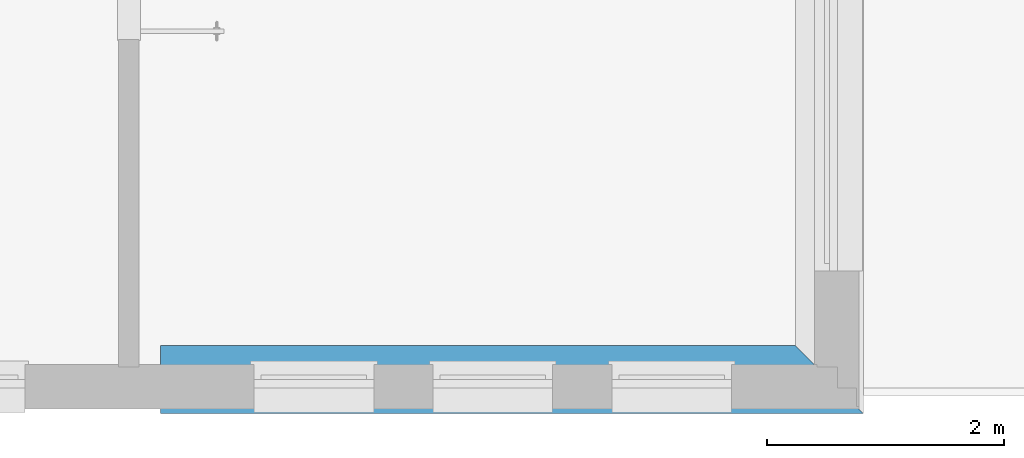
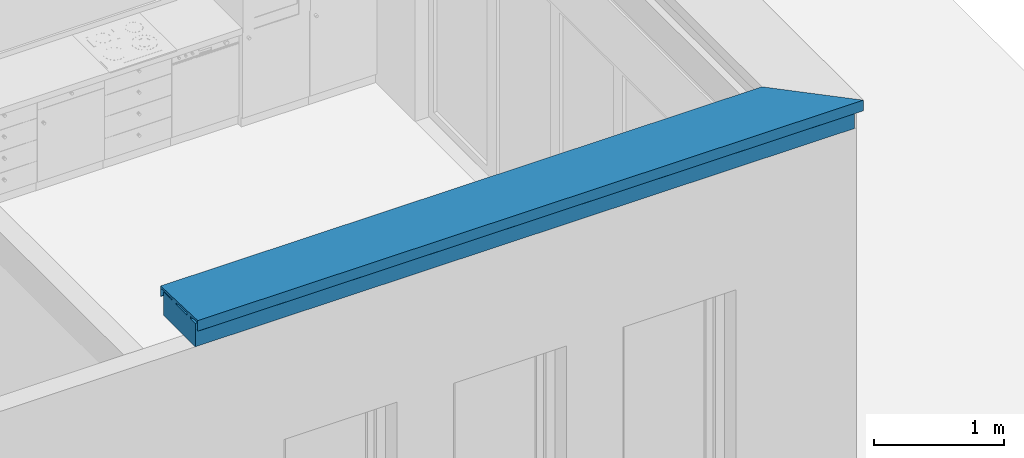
# One storey, part 3 of 28: 1 beam.
"""IFC4 building model written with IfcOpenShell, lengths in metres."""

from ifc_helpers import new_model, entity, si_unit, converted_unit, derived_unit, direction, frame, origin_with_axes, place, context, subcontext, project, spatial, triangles, material, constituent, constituent_set, type_object, element, save


model = new_model("IFC4")

# Units and contexts
model_context = context("Model", 3, precision=1e-05, world=origin_with_axes(), true_north=direction((-0.526213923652, 0.850352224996)))
body_context = subcontext(model_context, "Body", "Model", "MODEL_VIEW")
ifc_project = project(units=[si_unit("LENGTHUNIT", "METRE"), si_unit("AREAUNIT", "SQUARE_METRE"), si_unit("VOLUMEUNIT", "CUBIC_METRE"), converted_unit("PLANEANGLEUNIT", "DEGREE", entity("IfcPlaneAngleMeasure", 0.0174532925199), si_unit("PLANEANGLEUNIT", "RADIAN"), dimensions=[0, 0, 0, 0, 0, 0, 0]), si_unit("SOLIDANGLEUNIT", "STERADIAN"), converted_unit("TIMEUNIT", "Year", entity("IfcTimeMeasure", 31556926.0), si_unit("TIMEUNIT", "SECOND"), dimensions=[0, 0, 1, 0, 0, 0, 0]), si_unit("MASSUNIT", "GRAM", prefix="KILO"), si_unit("THERMODYNAMICTEMPERATUREUNIT", "DEGREE_CELSIUS"), si_unit("LUMINOUSINTENSITYUNIT", "LUMEN"), si_unit("ENERGYUNIT", "JOULE", prefix="MEGA"), derived_unit("THERMALCONDUCTANCEUNIT", [(si_unit("POWERUNIT", "WATT"), 1), (si_unit("LENGTHUNIT", "METRE"), -1), (si_unit("THERMODYNAMICTEMPERATUREUNIT", "KELVIN"), -1)]), derived_unit("SPECIFICHEATCAPACITYUNIT", [(si_unit("ENERGYUNIT", "JOULE"), 1), (si_unit("MASSUNIT", "GRAM", prefix="KILO"), -1), (si_unit("THERMODYNAMICTEMPERATUREUNIT", "KELVIN"), -1)]), derived_unit("MASSDENSITYUNIT", [(si_unit("MASSUNIT", "GRAM", prefix="KILO"), 1), (si_unit("VOLUMEUNIT", "CUBIC_METRE"), -1)])], contexts=[model_context])

# Site, building, storey, space
site_placement = place(None, origin_with_axes())
site = spatial("IfcSite", under=ifc_project, at=site_placement, Name="Gelände", CompositionType="ELEMENT")
building_placement = place(site_placement, origin_with_axes())
building = spatial("IfcBuilding", under=site, at=building_placement, Name="Haus vom Nikolaus", CompositionType="ELEMENT")
storey_placement = place(building_placement, origin_with_axes())
storey = spatial("IfcBuildingStorey", under=building, at=storey_placement, Name="EG", CompositionType="ELEMENT", Elevation=0.0)
space_placement = place(storey_placement, frame((-0.115002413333, 12.9948320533, 0.0), z_axis=(0.0, 0.0, 1.0), x_axis=(0.0, -1.0, 0.0)))
space = spatial("IfcSpace", under=storey, at=space_placement, Name="000", CompositionType="ELEMENT")

# Beam
ifc_material_1 = material(Name="Verputz, Kalkzement")
ifc_constituent_1 = constituent(ifc_material_1, Name="Component 1")
ifc_material_2 = material(Name="Holz, Bauholz")
ifc_constituent_2 = constituent(ifc_material_2, Name="Component 2")
ifc_material_3 = material(Name="Dämmung, hart XPS")
ifc_constituent_3 = constituent(ifc_material_3, Name="Component 3")
ifc_material_4 = material(Name="Holz, Brettschichtholz")
ifc_constituent_4 = constituent(ifc_material_4, Name="Component 4")
ifc_material_5 = material(Name="MW Kalksandstein")
ifc_constituent_5 = constituent(ifc_material_5, Name="Component 5")
ifc_constituent_6 = constituent(ifc_material_2, Name="Component 6")
ifc_constituent_7 = constituent(ifc_material_3, Name="Component 7")
ifc_material_6 = material(Name="Holz, Spanplatte")
ifc_constituent_8 = constituent(ifc_material_6, Name="Component 8")
ifc_material_7 = material(Name="Metall, Stahl verzinkt")
ifc_constituent_9 = constituent(ifc_material_7, Name="Component 9")
ifc_constituent_set = constituent_set(constituents=[ifc_constituent_1, ifc_constituent_2, ifc_constituent_3, ifc_constituent_4, ifc_constituent_5, ifc_constituent_6, ifc_constituent_7, ifc_constituent_8, ifc_constituent_9], Name="Bauteil - Attika Mauerwerk")
beam_type = type_object("IfcBeamType", Name="Bauteil - Attika Mauerwerk 574 x 270", PredefinedType="NOTDEFINED")
beam_placement = place(space_placement, frame((12.9299999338, 11.3750000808, 3.67), z_axis=(0.0, 0.0, 1.0), x_axis=(0.0, -1.0, 0.0)))
element("IfcBeam", 1, at=beam_placement, inside=space, type_object=beam_type, material=ifc_constituent_set, Name="Attika-Wand-005", ObjectType="Bauteil - Attika Mauerwerk 574 x 270", context=body_context, shape_type="Tessellation", body=[
    triangles([(5.71461561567, 0.160124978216, 0.300000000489), (-0.160124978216, 0.180000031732, 0.300000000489), (-0.160124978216, 0.160124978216, 0.300000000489), (5.71461561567, 0.180000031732, 0.300000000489), (-0.160039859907, 0.180000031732, 0.259126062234), (-0.160039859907, 0.160039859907, 0.259126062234), (5.71461561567, 0.160000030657, 0.239999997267), (-0.160023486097, 0.160023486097, 0.251263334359), (-0.160018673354, 0.160018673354, 0.24895224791), (-0.160000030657, 0.160000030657, 0.239999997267), (5.71461561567, 0.180000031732, 0.08), (5.71461561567, 0.160000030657, 0.08), (-0.160000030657, 0.180000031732, 0.228597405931), (-0.160000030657, 0.180000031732, 0.08), (-0.160000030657, 0.180000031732, 0.238724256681), (-0.160000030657, 0.180000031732, 0.23090849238), (-0.160000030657, 0.180000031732, 0.239999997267), (-0.160018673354, 0.180000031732, 0.24895224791), (-0.160023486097, 0.180000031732, 0.251263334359), (-0.160000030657, 0.160000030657, 0.228597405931), (-0.160000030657, 0.160000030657, 0.23090849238), (-0.160000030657, 0.160000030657, 0.238724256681), (-0.160000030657, 0.160000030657, 0.08)], [[1, 2, 3], [1, 4, 2], [5, 3, 2], [3, 5, 6], [7, 6, 8], [1, 6, 7], [7, 8, 9], [7, 9, 10], [6, 1, 3], [11, 4, 7], [11, 7, 12], [1, 7, 4], [13, 4, 11], [4, 5, 2], [14, 13, 11], [15, 4, 16], [13, 16, 4], [17, 4, 15], [18, 4, 17], [19, 5, 4], [18, 19, 4], [19, 6, 5], [19, 8, 6], [18, 8, 19], [18, 9, 8], [17, 9, 18], [17, 10, 9], [20, 7, 21], [21, 7, 22], [7, 20, 12], [12, 20, 23], [22, 7, 10], [11, 23, 14], [11, 12, 23], [14, 20, 13], [14, 23, 20], [13, 21, 16], [13, 20, 21], [16, 22, 15], [16, 21, 22], [15, 10, 17], [15, 22, 10]], closed=True),
    triangles([(-0.0501249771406, 0.110082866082, 0.30784881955), (5.71461561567, 0.110124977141, 0.300000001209), (-0.0501249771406, 0.110124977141, 0.300000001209), (-0.109995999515, 0.109995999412, 0.324039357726), (5.71461561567, 0.109995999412, 0.324039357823), (-0.0501249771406, 0.110007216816, 0.321948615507), (-0.0501249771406, 0.110039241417, 0.315979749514), (-0.0501249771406, 0.0501249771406, 0.321948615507), (5.71461561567, 0.0501249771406, 0.321948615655), (5.71461561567, 0.0501249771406, 0.300000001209), (-0.0501249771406, 0.0501249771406, 0.300000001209), (-0.0501249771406, 0.0501249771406, 0.30784881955), (-0.0501249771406, 0.0501249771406, 0.315979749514)], [[1, 2, 3], [4, 5, 6], [7, 2, 1], [2, 7, 5], [5, 7, 6], [6, 8, 4], [5, 8, 9], [8, 5, 4], [2, 9, 10], [2, 5, 9], [2, 11, 3], [2, 10, 11], [11, 1, 3], [1, 11, 12], [12, 7, 1], [7, 12, 13], [13, 6, 7], [6, 13, 8], [9, 12, 10], [12, 9, 13], [10, 12, 11], [13, 9, 8]], closed=True),
    triangles([(5.71461561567, 0.0, 0.24), (0.0, 0.16, 0.24), (0.0, 0.0, 0.24), (5.71461561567, 0.16, 0.24), (0.0, 0.0, 0.238724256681), (0.0, 0.16, 0.238724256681), (0.0, 0.0, 0.23090849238), (0.0, 0.0, 0.228597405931), (5.71461561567, 0.0, 0.0799999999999), (0.0, 0.0, 0.0799999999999), (5.71461561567, 0.16, 0.0800000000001), (0.0, 0.16, 0.228597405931), (0.0, 0.16, 0.23090849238), (0.0, 0.16, 0.0799999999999)], [[1, 2, 3], [1, 4, 2], [2, 5, 3], [2, 6, 5], [7, 1, 5], [1, 8, 9], [8, 1, 7], [9, 8, 10], [5, 1, 3], [1, 11, 4], [1, 9, 11], [12, 4, 11], [4, 6, 2], [13, 6, 4], [12, 11, 14], [13, 4, 12], [7, 6, 13], [6, 7, 5], [12, 7, 13], [12, 8, 7], [14, 8, 12], [14, 10, 8], [11, 10, 14], [11, 9, 10]], closed=True),
    triangles([(5.71461561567, -0.2, 0.300000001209), (0.2, -0.18, 0.300000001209), (0.2, -0.2, 0.300000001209), (5.71461561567, -0.18, 0.300000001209), (0.2, -0.12, 0.300000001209), (0.2, -0.2, 0.259126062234), (0.2, 0.0501249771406, 0.300000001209), (0.2, 0.160039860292, 0.259126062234), (0.2, 0.110124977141, 0.300000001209), (0.2, 0.160124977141, 0.300000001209), (5.71461561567, -0.2, 0.24), (0.2, -0.2, 0.251263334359), (0.2, -0.2, 0.24895224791), (0.2, -0.2, 0.24), (5.71461561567, 0.110124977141, 0.300000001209), (5.71461561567, 0.160000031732, 0.24), (5.71461561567, 0.160124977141, 0.300000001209), (5.71461561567, 0.0501249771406, 0.300000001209), (5.71461561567, -0.12, 0.300000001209), (0.2, 0.160023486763, 0.251263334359), (0.2, 0.160018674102, 0.24895224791), (0.2, 0.160000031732, 0.24)], [[1, 2, 3], [1, 4, 2], [5, 6, 2], [2, 6, 3], [7, 6, 5], [8, 7, 9], [8, 9, 10], [7, 8, 6], [11, 6, 12], [1, 6, 11], [11, 12, 13], [11, 13, 14], [6, 1, 3], [1, 11, 4], [15, 16, 17], [16, 18, 11], [18, 16, 15], [19, 11, 18], [4, 11, 19], [4, 5, 2], [4, 19, 5], [19, 7, 5], [19, 18, 7], [18, 9, 7], [18, 15, 9], [15, 10, 9], [15, 17, 10], [16, 8, 17], [17, 8, 10], [20, 8, 16], [21, 16, 22], [20, 16, 21], [20, 6, 8], [20, 12, 6], [21, 12, 20], [21, 13, 12], [22, 13, 21], [22, 14, 13], [16, 14, 22], [16, 11, 14]], closed=True),
    triangles([(5.71461561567, -0.2, 0.24), (0.2, 0.0, 0.24), (0.2, -0.2, 0.24), (5.71461561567, 0.0, 0.24), (0.2, -0.2, 0.238724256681), (0.2, 0.0, 0.238724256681), (0.2, -0.2, 0.228597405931), (0.2, -0.2, 0.23090849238), (5.71461561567, -0.2, 0.0800000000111), (0.2, -0.2, 0.0800000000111), (5.71461561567, 0.0, 0.0799999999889), (0.2, 0.0, 0.228597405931), (0.2, 0.0, 0.23090849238), (0.2, 0.0, 0.0800000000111)], [[1, 2, 3], [1, 4, 2], [2, 5, 3], [2, 6, 5], [7, 1, 8], [8, 1, 5], [1, 7, 9], [9, 7, 10], [5, 1, 3], [9, 4, 1], [4, 9, 11], [12, 4, 11], [4, 6, 2], [13, 6, 4], [12, 11, 14], [13, 4, 12], [13, 5, 6], [13, 8, 5], [12, 8, 13], [12, 7, 8], [14, 7, 12], [14, 10, 7], [11, 10, 14], [11, 9, 10]], closed=True),
    triangles([(0.18, -0.12, 0.300000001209), (0.180062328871, -0.12, 0.30784881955), (5.71461561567, -0.12, 0.300000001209), (0.12, -0.12, 0.315979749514), (5.71461561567, -0.12, 0.315979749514), (0.180110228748, -0.12, 0.313880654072), (0.180062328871, -0.180062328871, 0.30784881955), (0.180110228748, -0.180110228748, 0.313880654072), (5.71461561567, -0.180110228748, 0.313880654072), (5.71461561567, -0.18, 0.300000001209), (0.18, -0.18, 0.300000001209)], [[1, 2, 3], [4, 5, 6], [3, 6, 5], [6, 3, 2], [6, 7, 8], [7, 6, 2], [6, 8, 4], [5, 8, 9], [8, 5, 4], [3, 9, 10], [3, 5, 9], [3, 11, 1], [3, 10, 11], [11, 2, 1], [2, 11, 7], [7, 10, 8], [11, 10, 7], [9, 8, 10]], closed=True),
    triangles([(5.71461561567, -0.31028294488, 0.300000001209), (0.31028294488, -0.2, 0.300000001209), (0.31028294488, -0.31028294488, 0.300000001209), (5.71461561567, -0.2, 0.300000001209), (0.31028294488, -0.31028294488, 0.259126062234), (0.31028294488, -0.2, 0.259126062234), (0.31028294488, -0.31028294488, 0.24895224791), (0.31028294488, -0.31028294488, 0.251263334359), (0.31028294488, -0.31028294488, 0.24), (0.31028294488, -0.31028294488, 0.238724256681), (0.31028294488, -0.31028294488, 0.23090849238), (0.31028294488, -0.31028294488, 0.228597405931), (5.71461561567, -0.31028294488, 0.08), (0.31028294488, -0.31028294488, 0.08), (5.71461561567, -0.2, 0.08), (0.31028294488, -0.2, 0.228597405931), (0.31028294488, -0.2, 0.251263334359), (0.31028294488, -0.2, 0.08), (0.31028294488, -0.2, 0.23090849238), (0.31028294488, -0.2, 0.238724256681), (0.31028294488, -0.2, 0.24), (0.31028294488, -0.2, 0.24895224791)], [[1, 2, 3], [1, 4, 2], [2, 5, 3], [2, 6, 5], [7, 1, 8], [8, 1, 5], [9, 1, 7], [10, 1, 9], [11, 1, 10], [12, 1, 11], [1, 12, 13], [13, 12, 14], [5, 1, 3], [4, 13, 15], [4, 1, 13], [16, 4, 15], [4, 6, 2], [17, 6, 4], [16, 15, 18], [19, 4, 16], [20, 4, 19], [21, 4, 20], [22, 4, 21], [17, 4, 22], [17, 5, 6], [17, 8, 5], [22, 8, 17], [22, 7, 8], [21, 7, 22], [21, 9, 7], [20, 9, 21], [20, 10, 9], [19, 10, 20], [19, 11, 10], [16, 11, 19], [16, 12, 11], [14, 16, 18], [16, 14, 12], [15, 14, 18], [15, 13, 14]], closed=True),
    triangles([(0.354205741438, 0.109996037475, 0.324039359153), (5.71461561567, 0.0501249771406, 0.321948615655), (0.354132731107, 0.0501249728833, 0.321948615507), (5.71461561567, 0.109995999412, 0.324039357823), (5.71461561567, 0.215636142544, 0.348471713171), (5.71461561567, -0.354338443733, 0.327839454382), (5.71461561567, 0.216359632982, 0.327753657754), (5.71461561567, -0.353640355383, 0.30784881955), (0.353924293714, -0.12080098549, 0.315979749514), (0.353640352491, -0.353640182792, 0.307848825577), (0.354205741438, -0.354205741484, 0.324039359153), (0.354132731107, -0.354132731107, 0.321948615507), (0.354335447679, 0.216359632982, 0.327753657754), (0.354338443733, 0.216356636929, 0.327839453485), (-0.215635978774, 0.215636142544, 0.348471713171), (0.354338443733, -0.354338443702, 0.327839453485), (0.353924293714, -0.353924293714, 0.315979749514)], [[1, 2, 3], [2, 1, 4], [2, 5, 6], [5, 4, 7], [5, 2, 4], [2, 6, 8], [3, 2, 9], [9, 8, 10], [8, 9, 2], [3, 11, 1], [3, 12, 11], [4, 13, 7], [4, 1, 13], [5, 14, 15], [14, 7, 13], [14, 5, 7], [16, 5, 15], [5, 16, 6], [10, 8, 17], [16, 8, 6], [12, 8, 11], [16, 11, 8], [17, 8, 12], [17, 9, 10], [12, 9, 17], [12, 3, 9], [16, 1, 11], [16, 14, 1], [1, 14, 13], [15, 14, 16]], closed=True),
    triangles([(0.355692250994, -0.354338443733, 0.24), (5.71461561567, -0.354338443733, 0.230908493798), (0.355692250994, -0.354338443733, 0.238724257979), (0.355692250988, -0.354338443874, 0.23090849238), (0.355692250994, -0.354338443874, 0.248952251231), (0.355692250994, -0.354338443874, 0.251263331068), (0.355692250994, -0.354338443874, 0.259126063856), (5.71461561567, -0.354338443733, 0.327839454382), (0.355692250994, -0.354338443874, 0.300000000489), (0.355692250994, -0.354338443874, 0.30784881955), (0.355692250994, -0.354338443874, 0.315979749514), (0.355692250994, -0.354338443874, 0.321948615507), (0.355692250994, -0.354338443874, 0.324039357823), (0.355692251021, -0.354338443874, 0.327839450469), (5.71461561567, -0.346522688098, 0.238724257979), (0.34652269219, -0.346522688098, 0.238724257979), (0.354338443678, -0.354338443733, 0.230908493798), (0.355692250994, -0.355692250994, 0.238724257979), (0.355692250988, -0.355692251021, 0.23090849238), (0.355692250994, -0.355692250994, 0.24), (0.355692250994, -0.355692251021, 0.248952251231), (0.355692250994, -0.355692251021, 0.251263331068), (0.355692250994, -0.355692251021, 0.259126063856), (0.355692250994, -0.355692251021, 0.300000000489), (0.355692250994, -0.355692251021, 0.30784881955), (0.355692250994, -0.355692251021, 0.315979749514), (0.355692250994, -0.355692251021, 0.321948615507), (0.355692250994, -0.355692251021, 0.324039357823), (0.355692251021, -0.355692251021, 0.327839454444), (0.355692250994, -0.318268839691, 0.329145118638), (5.71461561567, 0.215636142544, 0.348471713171), (-0.17817741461, 0.215636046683, 0.348471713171), (5.71461561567, -0.355692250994, 0.329145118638), (5.71461561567, -0.35473497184, 0.228597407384), (5.71461561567, -0.355692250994, 0.229554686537), (5.71461561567, -0.345518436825, 0.237813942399), (5.71461561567, 0.217859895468, 0.349908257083), (5.71461561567, 0.216512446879, 0.348504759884), (5.71461561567, 0.217859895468, 0.249909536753), (5.71461561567, 0.207733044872, 0.258121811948), (5.71461561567, 0.216902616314, 0.248952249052), (5.71461561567, 0.216506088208, 0.251263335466), (5.71461561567, 0.208643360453, 0.259126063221), (0.347432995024, -0.345518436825, 0.237813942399), (0.354338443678, -0.352423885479, 0.230908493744), (0.355692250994, -0.352423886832, 0.230908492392), (0.355692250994, -0.355692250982, 0.229554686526), (0.355692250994, -0.353777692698, 0.229554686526), (0.355692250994, -0.355692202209, 0.329145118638), (-0.17817741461, 0.178177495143, 0.348471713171), (-0.179090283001, 0.216512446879, 0.348504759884), (-0.214591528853, 0.216506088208, 0.251263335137), (-0.216506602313, 0.216506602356, 0.259126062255), (-0.21650608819, 0.216506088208, 0.251263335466), (-0.216512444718, 0.216512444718, 0.348471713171), (-0.216512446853, 0.216512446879, 0.348504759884), (-0.216510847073, 0.216510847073, 0.324039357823), (-0.216511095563, 0.216511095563, 0.327839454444), (-0.216510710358, 0.216510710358, 0.321948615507), (-0.21651032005, 0.21651032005, 0.315979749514), (-0.216509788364, 0.216509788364, 0.30784881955), (-0.216509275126, 0.216509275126, 0.300000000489), (-0.208643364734, 0.208643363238, 0.259126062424), (-0.207733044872, 0.20964761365, 0.258121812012), (-0.207733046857, 0.207733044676, 0.258121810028), (-0.216902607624, 0.216902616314, 0.248952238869), (-0.214591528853, 0.2145915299, 0.251263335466), (-0.215945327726, 0.217859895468, 0.249909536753), (-0.179090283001, 0.217859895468, 0.348504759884), (-0.216509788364, 0.217859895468, 0.30784881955), (-0.21651032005, 0.217859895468, 0.315979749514), (-0.214591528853, 0.217859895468, 0.251263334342), (-0.216506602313, 0.217859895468, 0.259126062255), (-0.21650608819, 0.217859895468, 0.251263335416), (-0.216509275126, 0.217859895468, 0.300000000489), (-0.216510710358, 0.217859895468, 0.321948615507), (-0.216510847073, 0.217859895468, 0.324039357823), (-0.216511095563, 0.217859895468, 0.327839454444), (-0.216512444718, 0.217859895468, 0.348471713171), (-0.216512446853, 0.217859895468, 0.348504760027), (-0.217859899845, 0.217859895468, 0.349908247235), (-0.179090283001, 0.179090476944, 0.348504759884), (0.354734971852, -0.35473497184, 0.228597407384)], [[1, 2, 3], [3, 2, 4], [5, 2, 1], [6, 2, 5], [7, 2, 6], [8, 7, 9], [8, 9, 10], [8, 10, 11], [8, 11, 12], [8, 12, 13], [8, 13, 14], [7, 8, 2], [4, 2, 15], [4, 16, 17], [16, 4, 15], [18, 4, 19], [18, 3, 4], [18, 1, 3], [18, 20, 1], [20, 5, 1], [20, 21, 5], [22, 5, 21], [22, 6, 5], [23, 6, 22], [23, 7, 6], [23, 9, 7], [23, 24, 9], [25, 9, 24], [25, 10, 9], [26, 10, 25], [26, 11, 10], [27, 11, 26], [27, 12, 11], [27, 13, 12], [27, 28, 13], [28, 14, 13], [28, 29, 14], [30, 8, 14], [8, 30, 31], [30, 32, 31], [31, 33, 8], [34, 2, 35], [2, 34, 36], [2, 36, 15], [33, 35, 2], [33, 31, 37], [37, 31, 38], [39, 37, 38], [40, 41, 42], [39, 38, 42], [40, 42, 43], [39, 42, 41], [8, 33, 2], [44, 15, 36], [44, 16, 15], [16, 45, 17], [45, 16, 44], [17, 46, 4], [17, 45, 46], [4, 47, 19], [47, 4, 48], [48, 4, 46], [29, 33, 49], [28, 33, 29], [27, 33, 28], [26, 33, 27], [25, 33, 26], [24, 33, 25], [23, 33, 24], [22, 35, 23], [33, 23, 35], [21, 35, 22], [19, 47, 35], [20, 35, 21], [18, 35, 20], [19, 35, 18], [49, 14, 29], [49, 30, 14], [49, 50, 30], [32, 30, 50], [32, 38, 31], [32, 51, 38], [52, 53, 54], [55, 51, 56], [51, 42, 38], [57, 51, 58], [58, 51, 55], [59, 51, 57], [60, 51, 59], [61, 51, 60], [62, 51, 61], [53, 51, 62], [53, 52, 51], [51, 52, 42], [63, 43, 64], [64, 42, 52], [42, 64, 43], [65, 43, 63], [43, 65, 40], [66, 41, 67], [65, 41, 40], [65, 67, 41], [68, 41, 66], [41, 68, 39], [69, 70, 71], [72, 39, 68], [73, 72, 74], [69, 39, 72], [69, 73, 75], [69, 75, 70], [69, 71, 76], [69, 76, 77], [69, 77, 78], [69, 78, 79], [69, 79, 80], [81, 37, 69], [39, 69, 37], [73, 69, 72], [82, 37, 81], [50, 37, 82], [37, 49, 33], [49, 37, 50], [47, 34, 35], [47, 83, 34], [45, 44, 46], [34, 46, 36], [36, 46, 44], [46, 34, 48], [83, 48, 34], [83, 47, 48], [82, 32, 50], [32, 82, 51], [56, 69, 80], [69, 56, 51], [56, 79, 55], [79, 56, 80], [55, 78, 58], [78, 55, 79], [58, 77, 57], [77, 58, 78], [57, 76, 59], [76, 57, 77], [59, 71, 60], [59, 76, 71], [60, 70, 61], [70, 60, 71], [61, 75, 62], [75, 61, 70], [62, 73, 53], [73, 62, 75], [53, 74, 54], [74, 53, 73], [52, 74, 72], [52, 54, 74], [64, 67, 65], [64, 52, 67], [63, 64, 65], [52, 72, 68], [52, 66, 67], [66, 52, 68], [81, 69, 51], [82, 81, 51]], closed=True),
])

save(model, "model.ifc")
